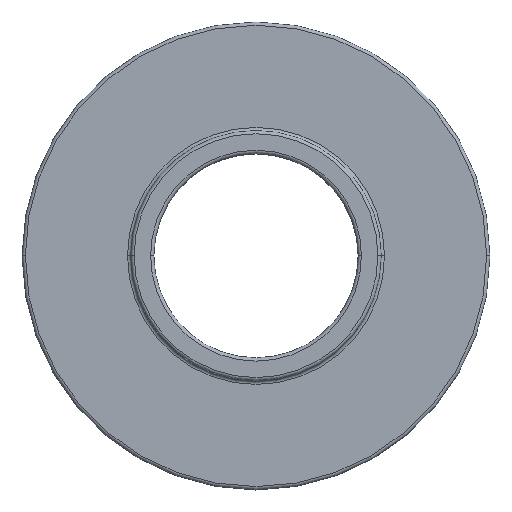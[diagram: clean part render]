
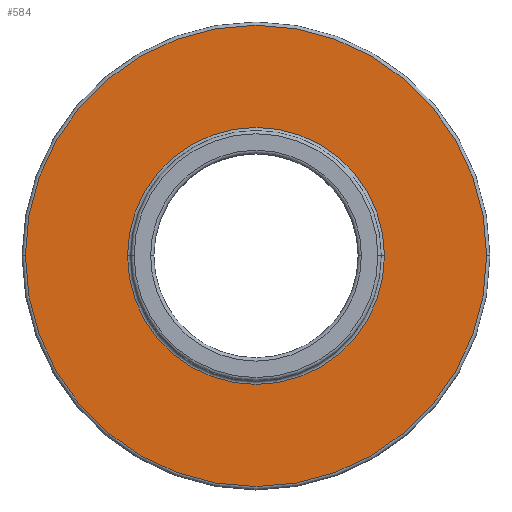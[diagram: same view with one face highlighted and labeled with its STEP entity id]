
A CAD part, top view. The second image highlights one B-rep face of the part: STEP entity #584.
In plain terms, the highlighted planar face has unit normal (0, 0, 1).
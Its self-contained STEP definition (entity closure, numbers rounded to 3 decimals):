
#26 = EDGE_LOOP ( 'NONE', ( #578, #544 ) ) ;
#42 = CIRCLE ( 'NONE', #43, 1.95 ) ;
#43 = AXIS2_PLACEMENT_3D ( 'NONE', #44, #45, #48 ) ;
#44 = CARTESIAN_POINT ( 'NONE',  ( 0., 0., 1.3 ) ) ;
#45 = DIRECTION ( 'NONE',  ( 0., 0., -1. ) ) ;
#48 = DIRECTION ( 'NONE',  ( 1., 0., 0. ) ) ;
#72 = CIRCLE ( 'NONE', #73, 3.5 ) ;
#73 = AXIS2_PLACEMENT_3D ( 'NONE', #74, #75, #76 ) ;
#74 = CARTESIAN_POINT ( 'NONE',  ( 0., 0., 1.3 ) ) ;
#75 = DIRECTION ( 'NONE',  ( 0., 0., 1. ) ) ;
#76 = DIRECTION ( 'NONE',  ( 1., 0., 0. ) ) ;
#207 = CARTESIAN_POINT ( 'NONE',  ( -3.5, 0., 1.3 ) ) ;
#208 = CARTESIAN_POINT ( 'NONE',  ( 1.95, 0., 1.3 ) ) ;
#209 = FACE_OUTER_BOUND ( 'NONE', #570, .T. ) ;
#210 = FACE_BOUND ( 'NONE', #26, .T. ) ;
#211 = PLANE ( 'NONE',  #212 ) ;
#212 = AXIS2_PLACEMENT_3D ( 'NONE', #213, #214, #215 ) ;
#213 = CARTESIAN_POINT ( 'NONE',  ( 0., 0., 1.3 ) ) ;
#214 = DIRECTION ( 'NONE',  ( 0., 0., 1. ) ) ;
#215 = DIRECTION ( 'NONE',  ( 1., 0., 0. ) ) ;
#217 = VERTEX_POINT ( 'NONE', #285 ) ;
#236 = EDGE_CURVE ( 'NONE', #540, #217, #295, .T. ) ;
#285 = CARTESIAN_POINT ( 'NONE',  ( 3.5, 0., 1.3 ) ) ;
#295 = CIRCLE ( 'NONE', #296, 3.5 ) ;
#296 = AXIS2_PLACEMENT_3D ( 'NONE', #297, #298, #299 ) ;
#297 = CARTESIAN_POINT ( 'NONE',  ( 0., 0., 1.3 ) ) ;
#298 = DIRECTION ( 'NONE',  ( 0., 0., 1. ) ) ;
#299 = DIRECTION ( 'NONE',  ( 1., 0., 0. ) ) ;
#310 = CARTESIAN_POINT ( 'NONE',  ( -1.95, 0., 1.3 ) ) ;
#416 = CIRCLE ( 'NONE', #417, 1.95 ) ;
#417 = AXIS2_PLACEMENT_3D ( 'NONE', #418, #419, #420 ) ;
#418 = CARTESIAN_POINT ( 'NONE',  ( 0., 0., 1.3 ) ) ;
#419 = DIRECTION ( 'NONE',  ( 0., 0., -1. ) ) ;
#420 = DIRECTION ( 'NONE',  ( 1., 0., 0. ) ) ;
#441 = EDGE_CURVE ( 'NONE', #541, #499, #416, .T. ) ;
#463 = EDGE_CURVE ( 'NONE', #217, #540, #72, .T. ) ;
#470 = ORIENTED_EDGE ( 'NONE', *, *, #236, .T. ) ;
#499 = VERTEX_POINT ( 'NONE', #310 ) ;
#514 = EDGE_CURVE ( 'NONE', #499, #541, #42, .T. ) ;
#527 = ORIENTED_EDGE ( 'NONE', *, *, #463, .T. ) ;
#540 = VERTEX_POINT ( 'NONE', #207 ) ;
#541 = VERTEX_POINT ( 'NONE', #208 ) ;
#544 = ORIENTED_EDGE ( 'NONE', *, *, #514, .T. ) ;
#570 = EDGE_LOOP ( 'NONE', ( #527, #470 ) ) ;
#578 = ORIENTED_EDGE ( 'NONE', *, *, #441, .T. ) ;
#584 = ADVANCED_FACE ( 'NONE', ( #209, #210 ), #211, .T. ) ;
